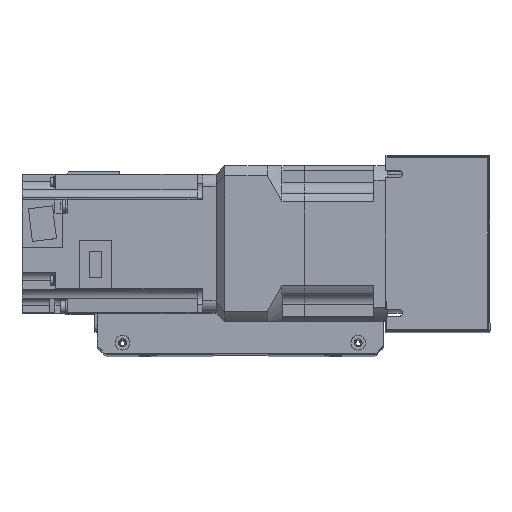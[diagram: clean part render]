
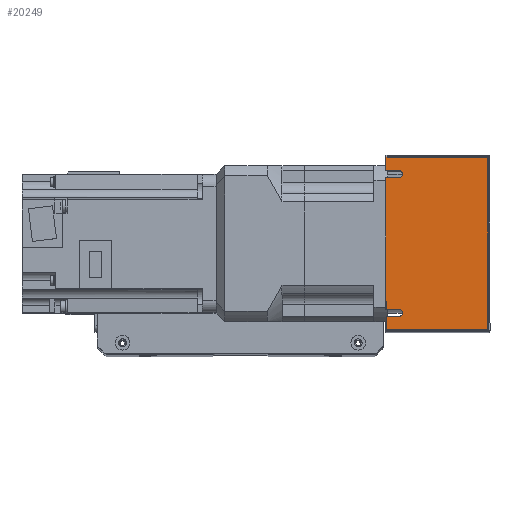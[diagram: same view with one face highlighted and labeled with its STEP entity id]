
A CAD part, top view. The second image highlights one B-rep face of the part: STEP entity #20249.
In plain terms, the highlighted planar face has unit normal (0, 0, 1) as drawn and (-1, 0, 0) by its records, which use the part's own axes.
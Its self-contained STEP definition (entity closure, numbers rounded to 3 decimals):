
#530=PLANE('',#22001);
#1618=LINE('',#32050,#3278);
#1624=LINE('',#32064,#3284);
#1636=LINE('',#32091,#3296);
#1646=LINE('',#32113,#3306);
#1654=LINE('',#32132,#3314);
#1655=LINE('',#32135,#3315);
#1656=LINE('',#32137,#3316);
#1657=LINE('',#32139,#3317);
#1658=LINE('',#32141,#3318);
#1659=LINE('',#32142,#3319);
#3278=VECTOR('',#26031,10.);
#3284=VECTOR('',#26041,10.);
#3296=VECTOR('',#26059,10.);
#3306=VECTOR('',#26073,10.);
#3314=VECTOR('',#26095,10.);
#3315=VECTOR('',#26098,10.);
#3316=VECTOR('',#26099,10.);
#3317=VECTOR('',#26100,10.);
#3318=VECTOR('',#26101,10.);
#3319=VECTOR('',#26102,10.);
#5236=FACE_OUTER_BOUND('',#6600,.T.);
#6600=EDGE_LOOP('',(#15752,#15753,#15754,#15755,#15756,#15757,#15758,#15759,
#15760,#15761,#15762,#15763));
#7994=CIRCLE('',#21997,2.);
#7997=CIRCLE('',#22002,2.);
#9387=VERTEX_POINT('',#32047);
#9388=VERTEX_POINT('',#32049);
#9393=VERTEX_POINT('',#32062);
#9394=VERTEX_POINT('',#32063);
#9405=VERTEX_POINT('',#32089);
#9406=VERTEX_POINT('',#32090);
#9415=VERTEX_POINT('',#32110);
#9416=VERTEX_POINT('',#32112);
#9421=VERTEX_POINT('',#32134);
#9422=VERTEX_POINT('',#32136);
#9423=VERTEX_POINT('',#32138);
#9424=VERTEX_POINT('',#32140);
#11695=EDGE_CURVE('',#9387,#9388,#1618,.T.);
#11701=EDGE_CURVE('',#9393,#9394,#1624,.T.);
#11713=EDGE_CURVE('',#9405,#9406,#1636,.T.);
#11723=EDGE_CURVE('',#9415,#9416,#1646,.T.);
#11726=EDGE_CURVE('',#9394,#9387,#7994,.T.);
#11735=EDGE_CURVE('',#9393,#9416,#1654,.T.);
#11736=EDGE_CURVE('',#9406,#9415,#7997,.T.);
#11737=EDGE_CURVE('',#9405,#9421,#1655,.T.);
#11738=EDGE_CURVE('',#9421,#9422,#1656,.T.);
#11739=EDGE_CURVE('',#9422,#9423,#1657,.T.);
#11740=EDGE_CURVE('',#9423,#9424,#1658,.T.);
#11741=EDGE_CURVE('',#9424,#9388,#1659,.T.);
#15752=ORIENTED_EDGE('',*,*,#11695,.F.);
#15753=ORIENTED_EDGE('',*,*,#11726,.F.);
#15754=ORIENTED_EDGE('',*,*,#11701,.F.);
#15755=ORIENTED_EDGE('',*,*,#11735,.T.);
#15756=ORIENTED_EDGE('',*,*,#11723,.F.);
#15757=ORIENTED_EDGE('',*,*,#11736,.F.);
#15758=ORIENTED_EDGE('',*,*,#11713,.F.);
#15759=ORIENTED_EDGE('',*,*,#11737,.T.);
#15760=ORIENTED_EDGE('',*,*,#11738,.T.);
#15761=ORIENTED_EDGE('',*,*,#11739,.T.);
#15762=ORIENTED_EDGE('',*,*,#11740,.T.);
#15763=ORIENTED_EDGE('',*,*,#11741,.T.);
#20249=ADVANCED_FACE('',(#5236),#530,.F.);
#21997=AXIS2_PLACEMENT_3D('',#32117,#26079,#26080);
#22001=AXIS2_PLACEMENT_3D('',#32131,#26093,#26094);
#22002=AXIS2_PLACEMENT_3D('',#32133,#26096,#26097);
#26031=DIRECTION('',(0.,0.,-1.));
#26041=DIRECTION('',(0.,0.,1.));
#26059=DIRECTION('',(0.,0.,1.));
#26073=DIRECTION('',(0.,0.,-1.));
#26079=DIRECTION('center_axis',(-1.,0.,0.));
#26080=DIRECTION('ref_axis',(0.,0.,1.));
#26093=DIRECTION('center_axis',(1.,0.,0.));
#26094=DIRECTION('ref_axis',(0.,-1.,0.));
#26095=DIRECTION('',(0.,-1.,0.));
#26096=DIRECTION('center_axis',(-1.,0.,0.));
#26097=DIRECTION('ref_axis',(0.,0.,1.));
#26098=DIRECTION('',(0.,-1.,0.));
#26099=DIRECTION('',(0.,0.,1.));
#26100=DIRECTION('',(0.,1.,0.));
#26101=DIRECTION('',(0.,0.,-1.));
#26102=DIRECTION('',(0.,-1.,0.));
#32047=CARTESIAN_POINT('',(-120.5,42.,-22.5));
#32049=CARTESIAN_POINT('',(-120.5,42.,-30.));
#32050=CARTESIAN_POINT('',(-120.5,42.,-16.304));
#32062=CARTESIAN_POINT('',(-120.5,38.,-30.));
#32063=CARTESIAN_POINT('',(-120.5,38.,-22.5));
#32064=CARTESIAN_POINT('',(-120.5,38.,-11.25));
#32089=CARTESIAN_POINT('',(-120.5,-42.,-30.));
#32090=CARTESIAN_POINT('',(-120.5,-42.,-22.5));
#32091=CARTESIAN_POINT('',(-120.5,-42.,-11.25));
#32110=CARTESIAN_POINT('',(-120.5,-38.,-22.5));
#32112=CARTESIAN_POINT('',(-120.5,-38.,-30.));
#32113=CARTESIAN_POINT('',(-120.5,-38.,-16.169));
#32117=CARTESIAN_POINT('Origin',(-120.5,40.,-22.5));
#32131=CARTESIAN_POINT('Origin',(-120.5,51.,0.));
#32132=CARTESIAN_POINT('',(-120.5,-51.,-30.));
#32133=CARTESIAN_POINT('Origin',(-120.5,-40.,-22.5));
#32134=CARTESIAN_POINT('',(-120.5,-50.,-30.));
#32135=CARTESIAN_POINT('',(-120.5,-51.,-30.));
#32136=CARTESIAN_POINT('',(-120.5,-50.,29.));
#32137=CARTESIAN_POINT('',(-120.5,-50.,0.));
#32138=CARTESIAN_POINT('',(-120.5,50.,29.));
#32139=CARTESIAN_POINT('',(-120.5,25.5,29.));
#32140=CARTESIAN_POINT('',(-120.5,50.,-30.));
#32141=CARTESIAN_POINT('',(-120.5,50.,0.));
#32142=CARTESIAN_POINT('',(-120.5,-51.,-30.));
